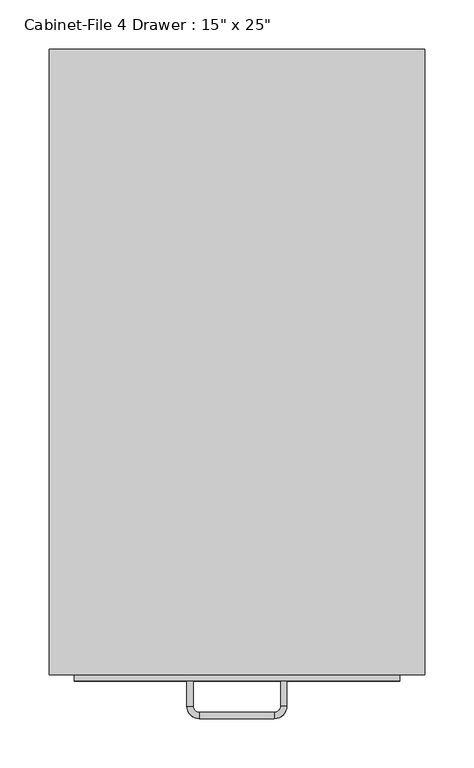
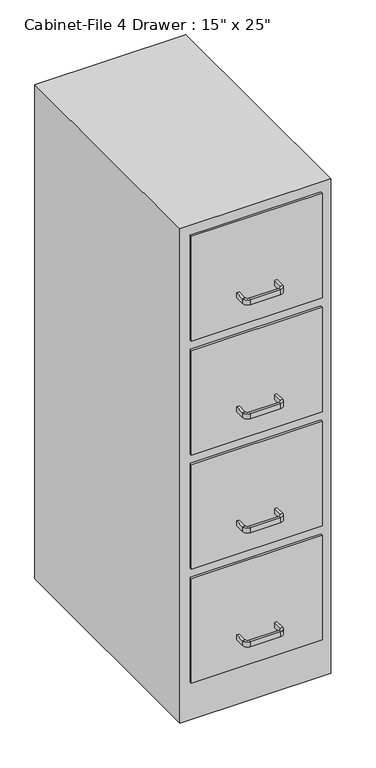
"""IFC4 building model written with IfcOpenShell, lengths in millimetres: furniture geometry."""

from ifc_helpers import new_model, si_unit, frame, origin, origin_with_axes, place, context, project, spatial, polyline, circle_curve, outline, extrude, source, transform, mapped, element, save
from ifc_brep_helpers import plane_surface, cylinder_surface, revolved_surface, advanced_brep


def furniture_e55d9147(model_context):
    return source(origin(), model_context, "Body", "SolidModel", [
        extrude(outline(polyline([(62.603553, 175.3656999), (62.603553, -459.6343001), (-318.396447, -459.6343001), (-318.396447, 175.3656999), (62.603553, 175.3656999)])), origin_with_axes(), (0.0, 0.0, 1.0), 1320.8),
        extrude(outline(polyline([(37.203553, -465.9843001), (-292.996447, -465.9843001), (-292.996447, -459.6343001), (37.203553, -459.6343001), (37.203553, -465.9843001)])), frame((0.0, 0.0, 1016.0), z_axis=(0.0, 0.0, 1.0), x_axis=(1.0, 0.0, 0.0)), (0.0, 0.0, 1.0), 279.4),
        extrude(outline(polyline([(37.203553, -465.9843001), (-292.996447, -465.9843001), (-292.996447, -459.6343001), (37.203553, -459.6343001), (37.203553, -465.9843001)])), frame((0.0, 0.0, 711.2), z_axis=(0.0, 0.0, 1.0), x_axis=(1.0, 0.0, 0.0)), (0.0, 0.0, 1.0), 279.4),
        extrude(outline(polyline([(37.203553, -465.9843001), (-292.996447, -465.9843001), (-292.996447, -459.6343001), (37.203553, -459.6343001), (37.203553, -465.9843001)])), frame((0.0, 0.0, 406.4), z_axis=(0.0, 0.0, 1.0), x_axis=(1.0, 0.0, 0.0)), (0.0, 0.0, 1.0), 279.4),
        extrude(outline(polyline([(37.203553, -465.9843001), (-292.996447, -465.9843001), (-292.996447, -459.6343001), (37.203553, -459.6343001), (37.203553, -465.9843001)])), frame((0.0, 0.0, 101.6), z_axis=(0.0, 0.0, 1.0), x_axis=(1.0, 0.0, 0.0)), (0.0, 0.0, 1.0), 279.4),
        advanced_brep(
        [(-172.346447, -465.9843001, 177.8), (-178.696447, -465.9843001, 177.8), (-178.696447, -465.9843001, 190.5), (-172.346447, -465.9843001, 190.5), (-172.346447, -491.3843001, 177.8), (-178.696447, -491.3843001, 177.8), (-178.696447, -491.3843001, 190.5), (-172.346447, -491.3843001, 190.5), (-165.996447, -504.0843001, 177.8), (-165.996447, -497.7343001, 177.8), (-165.996447, -504.0843001, 190.5), (-165.996447, -497.7343001, 190.5), (-89.796447, -497.7343001, 177.8), (-89.796447, -504.0843001, 177.8), (-89.796447, -504.0843001, 190.5), (-89.796447, -497.7343001, 190.5), (-77.096447, -491.3843001, 177.8), (-83.446447, -491.3843001, 177.8), (-77.096447, -491.3843001, 190.5), (-83.446447, -491.3843001, 190.5), (-83.446447, -465.9843001, 177.8), (-83.446447, -465.9843001, 190.5), (-77.096447, -465.9843001, 190.5), (-77.096447, -465.9843001, 177.8)],
        [
            (0, 1),
            (1, 2),
            (2, 3),
            (3, 0),
            (0, 4),
            (4, 5),
            (5, 1),
            (5, 6),
            (6, 2),
            (6, 7),
            (7, 3),
            (7, 4),
            (8, 5, circle_curve(frame((-165.996447, -491.3843001, 177.8), z_axis=(0.0, 0.0, -1.0), x_axis=(-1.0, 0.0, 0.0)), 12.7)),
            (4, 9, circle_curve(frame((-165.996447, -491.3843001, 177.8), z_axis=(0.0, 0.0, 1.0), x_axis=(-1.0, 0.0, 0.0)), 6.35)),
            (9, 8),
            (10, 6, circle_curve(frame((-165.996447, -491.3843001, 190.5), z_axis=(0.0, 0.0, -1.0), x_axis=(-1.0, 0.0, 0.0)), 12.7)),
            (8, 10),
            (11, 7, circle_curve(frame((-165.996447, -491.3843001, 190.5), z_axis=(0.0, 0.0, -1.0), x_axis=(-1.0, 0.0, 0.0)), 6.35)),
            (10, 11),
            (11, 9),
            (9, 12),
            (12, 13),
            (13, 8),
            (13, 14),
            (14, 10),
            (14, 15),
            (15, 11),
            (15, 12),
            (16, 13, circle_curve(frame((-89.796447, -491.3843001, 177.8), z_axis=(0.0, 0.0, -1.0), x_axis=(0.0, -1.0, 0.0)), 12.7)),
            (12, 17, circle_curve(frame((-89.796447, -491.3843001, 177.8), z_axis=(0.0, 0.0, 1.0), x_axis=(0.0, -1.0, 0.0)), 6.35)),
            (17, 16),
            (18, 14, circle_curve(frame((-89.796447, -491.3843001, 190.5), z_axis=(0.0, 0.0, -1.0), x_axis=(0.0, -1.0, 0.0)), 12.7)),
            (16, 18),
            (19, 15, circle_curve(frame((-89.796447, -491.3843001, 190.5), z_axis=(0.0, 0.0, -1.0), x_axis=(0.0, -1.0, 0.0)), 6.35)),
            (18, 19),
            (19, 17),
            (20, 21),
            (21, 22),
            (22, 23),
            (23, 20),
            (17, 20),
            (23, 16),
            (22, 18),
            (21, 19),
        ],
        [
            plane_surface(frame((-1283.614694, -465.9843001, 0.0), z_axis=(0.0, 1.0, 0.0), x_axis=(0.0, 0.0, -1.0))),
            plane_surface(frame((-172.346447, -465.9843001, 177.8), z_axis=(0.0, 0.0, -1.0), x_axis=(0.0, -1.0, 0.0))),
            plane_surface(frame((-178.696447, -465.9843001, 177.8), z_axis=(-1.0, 0.0, 0.0), x_axis=(0.0, -1.0, 0.0))),
            plane_surface(frame((-178.696447, -465.9843001, 190.5), z_axis=(0.0, 0.0, 1.0), x_axis=(0.0, -1.0, 0.0))),
            plane_surface(frame((-172.346447, -465.9843001, 190.5), z_axis=(1.0, 0.0, 0.0), x_axis=(0.0, -1.0, 0.0))),
            plane_surface(frame((-165.996447, -491.3843001, 177.8), z_axis=(0.0, 0.0, -1.0), x_axis=(-1.0, 0.0, 0.0))),
            cylinder_surface(frame((-165.996447, -491.3843001, 0.0), z_axis=(0.0, 0.0, 1.0), x_axis=(-1.0, 0.0, 0.0)), 12.7),
            plane_surface(frame((-165.996447, -491.3843001, 190.5), z_axis=(0.0, 0.0, 1.0), x_axis=(-1.0, 0.0, 0.0))),
            revolved_surface(polyline([(-172.34644699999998, -491.3843001, 190.5), (-172.34644699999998, -491.3843001, 177.8)]), (-165.996447, -491.3843001, 0.0), (0.0, 0.0, 1.0)),
            plane_surface(frame((-165.996447, -497.7343001, 177.8), z_axis=(0.0, 0.0, -1.0), x_axis=(1.0, 0.0, 0.0))),
            plane_surface(frame((-165.996447, -504.0843001, 177.8), z_axis=(0.0, -1.0, 0.0), x_axis=(1.0, 0.0, 0.0))),
            plane_surface(frame((-165.996447, -504.0843001, 190.5), z_axis=(0.0, 0.0, 1.0), x_axis=(1.0, 0.0, 0.0))),
            plane_surface(frame((-165.996447, -497.7343001, 190.5), z_axis=(0.0, 1.0, 0.0), x_axis=(1.0, 0.0, 0.0))),
            plane_surface(frame((-89.796447, -491.3843001, 177.8), z_axis=(0.0, 0.0, -1.0), x_axis=(0.0, -1.0, 0.0))),
            cylinder_surface(frame((-89.796447, -491.3843001, 0.0), z_axis=(0.0, 0.0, 1.0), x_axis=(0.0, -1.0, 0.0)), 12.7),
            plane_surface(frame((-89.796447, -491.3843001, 190.5), z_axis=(0.0, 0.0, 1.0), x_axis=(0.0, -1.0, 0.0))),
            revolved_surface(polyline([(-89.796447, -497.73430010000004, 190.5), (-89.796447, -497.73430010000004, 177.8)]), (-89.796447, -491.3843001, 0.0), (0.0, 0.0, 1.0)),
            plane_surface(frame((-1182.014694, -465.9843001, 0.0), z_axis=(0.0, 1.0, 0.0), x_axis=(0.0, 0.0, 1.0))),
            plane_surface(frame((-83.446447, -491.3843001, 177.8), z_axis=(0.0, 0.0, -1.0), x_axis=(0.0, 1.0, 0.0))),
            plane_surface(frame((-77.096447, -491.3843001, 177.8), z_axis=(1.0, 0.0, 0.0), x_axis=(0.0, 1.0, 0.0))),
            plane_surface(frame((-77.096447, -491.3843001, 190.5), z_axis=(0.0, 0.0, 1.0), x_axis=(0.0, 1.0, 0.0))),
            plane_surface(frame((-83.446447, -491.3843001, 190.5), z_axis=(-1.0, 0.0, 0.0), x_axis=(0.0, 1.0, 0.0))),
        ],
        [
            (0, [[1, 2, 3, 4]]),
            (1, [[-1, 5, 6, 7]]),
            (2, [[-2, -7, 8, 9]]),
            (3, [[-3, -9, 10, 11]]),
            (4, [[-4, -11, 12, -5]]),
            (5, [[13, -6, 14, 15]]),
            (6, [[16, -8, -13, 17]]),
            (7, [[18, -10, -16, 19]]),
            (8, [[-14, -12, -18, 20]]),
            (9, [[-15, 21, 22, 23]]),
            (10, [[-17, -23, 24, 25]]),
            (11, [[-19, -25, 26, 27]]),
            (12, [[-20, -27, 28, -21]]),
            (13, [[29, -22, 30, 31]]),
            (14, [[32, -24, -29, 33]]),
            (15, [[34, -26, -32, 35]]),
            (16, [[-30, -28, -34, 36]]),
            (17, [[37, 38, 39, 40]]),
            (18, [[-31, 41, -40, 42]]),
            (19, [[-33, -42, -39, 43]]),
            (20, [[-35, -43, -38, 44]]),
            (21, [[-36, -44, -37, -41]]),
        ],
    ),
        advanced_brep(
        [(-172.346447, -465.9843001, 482.6), (-178.696447, -465.9843001, 482.6), (-178.696447, -465.9843001, 495.3), (-172.346447, -465.9843001, 495.3), (-172.346447, -491.3843001, 482.6), (-178.696447, -491.3843001, 482.6), (-178.696447, -491.3843001, 495.3), (-172.346447, -491.3843001, 495.3), (-165.996447, -504.0843001, 482.6), (-165.996447, -497.7343001, 482.6), (-165.996447, -504.0843001, 495.3), (-165.996447, -497.7343001, 495.3), (-89.796447, -497.7343001, 482.6), (-89.796447, -504.0843001, 482.6), (-89.796447, -504.0843001, 495.3), (-89.796447, -497.7343001, 495.3), (-77.096447, -491.3843001, 482.6), (-83.446447, -491.3843001, 482.6), (-77.096447, -491.3843001, 495.3), (-83.446447, -491.3843001, 495.3), (-83.446447, -465.9843001, 482.6), (-83.446447, -465.9843001, 495.3), (-77.096447, -465.9843001, 495.3), (-77.096447, -465.9843001, 482.6)],
        [
            (0, 1),
            (1, 2),
            (2, 3),
            (3, 0),
            (0, 4),
            (4, 5),
            (5, 1),
            (5, 6),
            (6, 2),
            (6, 7),
            (7, 3),
            (7, 4),
            (8, 5, circle_curve(frame((-165.996447, -491.3843001, 482.6), z_axis=(0.0, 0.0, -1.0), x_axis=(-1.0, 0.0, 0.0)), 12.7)),
            (4, 9, circle_curve(frame((-165.996447, -491.3843001, 482.6), z_axis=(0.0, 0.0, 1.0), x_axis=(-1.0, 0.0, 0.0)), 6.35)),
            (9, 8),
            (10, 6, circle_curve(frame((-165.996447, -491.3843001, 495.3), z_axis=(0.0, 0.0, -1.0), x_axis=(-1.0, 0.0, 0.0)), 12.7)),
            (8, 10),
            (11, 7, circle_curve(frame((-165.996447, -491.3843001, 495.3), z_axis=(0.0, 0.0, -1.0), x_axis=(-1.0, 0.0, 0.0)), 6.35)),
            (10, 11),
            (11, 9),
            (9, 12),
            (12, 13),
            (13, 8),
            (13, 14),
            (14, 10),
            (14, 15),
            (15, 11),
            (15, 12),
            (16, 13, circle_curve(frame((-89.796447, -491.3843001, 482.6), z_axis=(0.0, 0.0, -1.0), x_axis=(0.0, -1.0, 0.0)), 12.7)),
            (12, 17, circle_curve(frame((-89.796447, -491.3843001, 482.6), z_axis=(0.0, 0.0, 1.0), x_axis=(0.0, -1.0, 0.0)), 6.35)),
            (17, 16),
            (18, 14, circle_curve(frame((-89.796447, -491.3843001, 495.3), z_axis=(0.0, 0.0, -1.0), x_axis=(0.0, -1.0, 0.0)), 12.7)),
            (16, 18),
            (19, 15, circle_curve(frame((-89.796447, -491.3843001, 495.3), z_axis=(0.0, 0.0, -1.0), x_axis=(0.0, -1.0, 0.0)), 6.35)),
            (18, 19),
            (19, 17),
            (20, 21),
            (21, 22),
            (22, 23),
            (23, 20),
            (17, 20),
            (23, 16),
            (22, 18),
            (21, 19),
        ],
        [
            plane_surface(frame((-1283.614694, -465.9843001, 0.0), z_axis=(0.0, 1.0, 0.0), x_axis=(0.0, 0.0, -1.0))),
            plane_surface(frame((-172.346447, -465.9843001, 482.6), z_axis=(0.0, 0.0, -1.0), x_axis=(0.0, -1.0, 0.0))),
            plane_surface(frame((-178.696447, -465.9843001, 482.6), z_axis=(-1.0, 0.0, 0.0), x_axis=(0.0, -1.0, 0.0))),
            plane_surface(frame((-178.696447, -465.9843001, 495.3), z_axis=(0.0, 0.0, 1.0), x_axis=(0.0, -1.0, 0.0))),
            plane_surface(frame((-172.346447, -465.9843001, 495.3), z_axis=(1.0, 0.0, 0.0), x_axis=(0.0, -1.0, 0.0))),
            plane_surface(frame((-165.996447, -491.3843001, 482.6), z_axis=(0.0, 0.0, -1.0), x_axis=(-1.0, 0.0, 0.0))),
            cylinder_surface(frame((-165.996447, -491.3843001, 0.0), z_axis=(0.0, 0.0, 1.0), x_axis=(-1.0, 0.0, 0.0)), 12.7),
            plane_surface(frame((-165.996447, -491.3843001, 495.3), z_axis=(0.0, 0.0, 1.0), x_axis=(-1.0, 0.0, 0.0))),
            revolved_surface(polyline([(-172.34644699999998, -491.3843001, 495.3), (-172.34644699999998, -491.3843001, 482.6)]), (-165.996447, -491.3843001, 0.0), (0.0, 0.0, 1.0)),
            plane_surface(frame((-165.996447, -497.7343001, 482.6), z_axis=(0.0, 0.0, -1.0), x_axis=(1.0, 0.0, 0.0))),
            plane_surface(frame((-165.996447, -504.0843001, 482.6), z_axis=(0.0, -1.0, 0.0), x_axis=(1.0, 0.0, 0.0))),
            plane_surface(frame((-165.996447, -504.0843001, 495.3), z_axis=(0.0, 0.0, 1.0), x_axis=(1.0, 0.0, 0.0))),
            plane_surface(frame((-165.996447, -497.7343001, 495.3), z_axis=(0.0, 1.0, 0.0), x_axis=(1.0, 0.0, 0.0))),
            plane_surface(frame((-89.796447, -491.3843001, 482.6), z_axis=(0.0, 0.0, -1.0), x_axis=(0.0, -1.0, 0.0))),
            cylinder_surface(frame((-89.796447, -491.3843001, 0.0), z_axis=(0.0, 0.0, 1.0), x_axis=(0.0, -1.0, 0.0)), 12.7),
            plane_surface(frame((-89.796447, -491.3843001, 495.3), z_axis=(0.0, 0.0, 1.0), x_axis=(0.0, -1.0, 0.0))),
            revolved_surface(polyline([(-89.796447, -497.73430010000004, 495.3), (-89.796447, -497.73430010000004, 482.6)]), (-89.796447, -491.3843001, 0.0), (0.0, 0.0, 1.0)),
            plane_surface(frame((-1182.014694, -465.9843001, 0.0), z_axis=(0.0, 1.0, 0.0), x_axis=(0.0, 0.0, 1.0))),
            plane_surface(frame((-83.446447, -491.3843001, 482.6), z_axis=(0.0, 0.0, -1.0), x_axis=(0.0, 1.0, 0.0))),
            plane_surface(frame((-77.096447, -491.3843001, 482.6), z_axis=(1.0, 0.0, 0.0), x_axis=(0.0, 1.0, 0.0))),
            plane_surface(frame((-77.096447, -491.3843001, 495.3), z_axis=(0.0, 0.0, 1.0), x_axis=(0.0, 1.0, 0.0))),
            plane_surface(frame((-83.446447, -491.3843001, 495.3), z_axis=(-1.0, 0.0, 0.0), x_axis=(0.0, 1.0, 0.0))),
        ],
        [
            (0, [[1, 2, 3, 4]]),
            (1, [[-1, 5, 6, 7]]),
            (2, [[-2, -7, 8, 9]]),
            (3, [[-3, -9, 10, 11]]),
            (4, [[-4, -11, 12, -5]]),
            (5, [[13, -6, 14, 15]]),
            (6, [[16, -8, -13, 17]]),
            (7, [[18, -10, -16, 19]]),
            (8, [[-14, -12, -18, 20]]),
            (9, [[-15, 21, 22, 23]]),
            (10, [[-17, -23, 24, 25]]),
            (11, [[-19, -25, 26, 27]]),
            (12, [[-20, -27, 28, -21]]),
            (13, [[29, -22, 30, 31]]),
            (14, [[32, -24, -29, 33]]),
            (15, [[34, -26, -32, 35]]),
            (16, [[-30, -28, -34, 36]]),
            (17, [[37, 38, 39, 40]]),
            (18, [[-31, 41, -40, 42]]),
            (19, [[-33, -42, -39, 43]]),
            (20, [[-35, -43, -38, 44]]),
            (21, [[-36, -44, -37, -41]]),
        ],
    ),
        advanced_brep(
        [(-172.346447, -465.9843001, 787.4), (-178.696447, -465.9843001, 787.4), (-178.696447, -465.9843001, 800.1), (-172.346447, -465.9843001, 800.1), (-172.346447, -491.3843001, 787.4), (-178.696447, -491.3843001, 787.4), (-178.696447, -491.3843001, 800.1), (-172.346447, -491.3843001, 800.1), (-165.996447, -504.0843001, 787.4), (-165.996447, -497.7343001, 787.4), (-165.996447, -504.0843001, 800.1), (-165.996447, -497.7343001, 800.1), (-89.796447, -497.7343001, 787.4), (-89.796447, -504.0843001, 787.4), (-89.796447, -504.0843001, 800.1), (-89.796447, -497.7343001, 800.1), (-77.096447, -491.3843001, 787.4), (-83.446447, -491.3843001, 787.4), (-77.096447, -491.3843001, 800.1), (-83.446447, -491.3843001, 800.1), (-83.446447, -465.9843001, 787.4), (-83.446447, -465.9843001, 800.1), (-77.096447, -465.9843001, 800.1), (-77.096447, -465.9843001, 787.4)],
        [
            (0, 1),
            (1, 2),
            (2, 3),
            (3, 0),
            (0, 4),
            (4, 5),
            (5, 1),
            (5, 6),
            (6, 2),
            (6, 7),
            (7, 3),
            (7, 4),
            (8, 5, circle_curve(frame((-165.996447, -491.3843001, 787.4), z_axis=(0.0, 0.0, -1.0), x_axis=(-1.0, 0.0, 0.0)), 12.7)),
            (4, 9, circle_curve(frame((-165.996447, -491.3843001, 787.4), z_axis=(0.0, 0.0, 1.0), x_axis=(-1.0, 0.0, 0.0)), 6.35)),
            (9, 8),
            (10, 6, circle_curve(frame((-165.996447, -491.3843001, 800.1), z_axis=(0.0, 0.0, -1.0), x_axis=(-1.0, 0.0, 0.0)), 12.7)),
            (8, 10),
            (11, 7, circle_curve(frame((-165.996447, -491.3843001, 800.1), z_axis=(0.0, 0.0, -1.0), x_axis=(-1.0, 0.0, 0.0)), 6.35)),
            (10, 11),
            (11, 9),
            (9, 12),
            (12, 13),
            (13, 8),
            (13, 14),
            (14, 10),
            (14, 15),
            (15, 11),
            (15, 12),
            (16, 13, circle_curve(frame((-89.796447, -491.3843001, 787.4), z_axis=(0.0, 0.0, -1.0), x_axis=(0.0, -1.0, 0.0)), 12.7)),
            (12, 17, circle_curve(frame((-89.796447, -491.3843001, 787.4), z_axis=(0.0, 0.0, 1.0), x_axis=(0.0, -1.0, 0.0)), 6.35)),
            (17, 16),
            (18, 14, circle_curve(frame((-89.796447, -491.3843001, 800.1), z_axis=(0.0, 0.0, -1.0), x_axis=(0.0, -1.0, 0.0)), 12.7)),
            (16, 18),
            (19, 15, circle_curve(frame((-89.796447, -491.3843001, 800.1), z_axis=(0.0, 0.0, -1.0), x_axis=(0.0, -1.0, 0.0)), 6.35)),
            (18, 19),
            (19, 17),
            (20, 21),
            (21, 22),
            (22, 23),
            (23, 20),
            (17, 20),
            (23, 16),
            (22, 18),
            (21, 19),
        ],
        [
            plane_surface(frame((-1283.614694, -465.9843001, 0.0), z_axis=(0.0, 1.0, 0.0), x_axis=(0.0, 0.0, -1.0))),
            plane_surface(frame((-172.346447, -465.9843001, 787.4), z_axis=(0.0, 0.0, -1.0), x_axis=(0.0, -1.0, 0.0))),
            plane_surface(frame((-178.696447, -465.9843001, 787.4), z_axis=(-1.0, 0.0, 0.0), x_axis=(0.0, -1.0, 0.0))),
            plane_surface(frame((-178.696447, -465.9843001, 800.1), z_axis=(0.0, 0.0, 1.0), x_axis=(0.0, -1.0, 0.0))),
            plane_surface(frame((-172.346447, -465.9843001, 800.1), z_axis=(1.0, 0.0, 0.0), x_axis=(0.0, -1.0, 0.0))),
            plane_surface(frame((-165.996447, -491.3843001, 787.4), z_axis=(0.0, 0.0, -1.0), x_axis=(-1.0, 0.0, 0.0))),
            cylinder_surface(frame((-165.996447, -491.3843001, 0.0), z_axis=(0.0, 0.0, 1.0), x_axis=(-1.0, 0.0, 0.0)), 12.7),
            plane_surface(frame((-165.996447, -491.3843001, 800.1), z_axis=(0.0, 0.0, 1.0), x_axis=(-1.0, 0.0, 0.0))),
            revolved_surface(polyline([(-172.34644699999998, -491.3843001, 800.1), (-172.34644699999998, -491.3843001, 787.4)]), (-165.996447, -491.3843001, 0.0), (0.0, 0.0, 1.0)),
            plane_surface(frame((-165.996447, -497.7343001, 787.4), z_axis=(0.0, 0.0, -1.0), x_axis=(1.0, 0.0, 0.0))),
            plane_surface(frame((-165.996447, -504.0843001, 787.4), z_axis=(0.0, -1.0, 0.0), x_axis=(1.0, 0.0, 0.0))),
            plane_surface(frame((-165.996447, -504.0843001, 800.1), z_axis=(0.0, 0.0, 1.0), x_axis=(1.0, 0.0, 0.0))),
            plane_surface(frame((-165.996447, -497.7343001, 800.1), z_axis=(0.0, 1.0, 0.0), x_axis=(1.0, 0.0, 0.0))),
            plane_surface(frame((-89.796447, -491.3843001, 787.4), z_axis=(0.0, 0.0, -1.0), x_axis=(0.0, -1.0, 0.0))),
            cylinder_surface(frame((-89.796447, -491.3843001, 0.0), z_axis=(0.0, 0.0, 1.0), x_axis=(0.0, -1.0, 0.0)), 12.7),
            plane_surface(frame((-89.796447, -491.3843001, 800.1), z_axis=(0.0, 0.0, 1.0), x_axis=(0.0, -1.0, 0.0))),
            revolved_surface(polyline([(-89.796447, -497.73430010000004, 800.1), (-89.796447, -497.73430010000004, 787.4)]), (-89.796447, -491.3843001, 0.0), (0.0, 0.0, 1.0)),
            plane_surface(frame((-1182.014694, -465.9843001, 0.0), z_axis=(0.0, 1.0, 0.0), x_axis=(0.0, 0.0, 1.0))),
            plane_surface(frame((-83.446447, -491.3843001, 787.4), z_axis=(0.0, 0.0, -1.0), x_axis=(0.0, 1.0, 0.0))),
            plane_surface(frame((-77.096447, -491.3843001, 787.4), z_axis=(1.0, 0.0, 0.0), x_axis=(0.0, 1.0, 0.0))),
            plane_surface(frame((-77.096447, -491.3843001, 800.1), z_axis=(0.0, 0.0, 1.0), x_axis=(0.0, 1.0, 0.0))),
            plane_surface(frame((-83.446447, -491.3843001, 800.1), z_axis=(-1.0, 0.0, 0.0), x_axis=(0.0, 1.0, 0.0))),
        ],
        [
            (0, [[1, 2, 3, 4]]),
            (1, [[-1, 5, 6, 7]]),
            (2, [[-2, -7, 8, 9]]),
            (3, [[-3, -9, 10, 11]]),
            (4, [[-4, -11, 12, -5]]),
            (5, [[13, -6, 14, 15]]),
            (6, [[16, -8, -13, 17]]),
            (7, [[18, -10, -16, 19]]),
            (8, [[-14, -12, -18, 20]]),
            (9, [[-15, 21, 22, 23]]),
            (10, [[-17, -23, 24, 25]]),
            (11, [[-19, -25, 26, 27]]),
            (12, [[-20, -27, 28, -21]]),
            (13, [[29, -22, 30, 31]]),
            (14, [[32, -24, -29, 33]]),
            (15, [[34, -26, -32, 35]]),
            (16, [[-30, -28, -34, 36]]),
            (17, [[37, 38, 39, 40]]),
            (18, [[-31, 41, -40, 42]]),
            (19, [[-33, -42, -39, 43]]),
            (20, [[-35, -43, -38, 44]]),
            (21, [[-36, -44, -37, -41]]),
        ],
    ),
        advanced_brep(
        [(-172.346447, -465.9843001, 1092.2), (-178.696447, -465.9843001, 1092.2), (-178.696447, -465.9843001, 1104.9), (-172.346447, -465.9843001, 1104.9), (-172.346447, -491.3843001, 1092.2), (-178.696447, -491.3843001, 1092.2), (-178.696447, -491.3843001, 1104.9), (-172.346447, -491.3843001, 1104.9), (-165.996447, -504.0843001, 1092.2), (-165.996447, -497.7343001, 1092.2), (-165.996447, -504.0843001, 1104.9), (-165.996447, -497.7343001, 1104.9), (-89.796447, -497.7343001, 1092.2), (-89.796447, -504.0843001, 1092.2), (-89.796447, -504.0843001, 1104.9), (-89.796447, -497.7343001, 1104.9), (-77.096447, -491.3843001, 1092.2), (-83.446447, -491.3843001, 1092.2), (-77.096447, -491.3843001, 1104.9), (-83.446447, -491.3843001, 1104.9), (-83.446447, -465.9843001, 1092.2), (-83.446447, -465.9843001, 1104.9), (-77.096447, -465.9843001, 1104.9), (-77.096447, -465.9843001, 1092.2)],
        [
            (0, 1),
            (1, 2),
            (2, 3),
            (3, 0),
            (0, 4),
            (4, 5),
            (5, 1),
            (5, 6),
            (6, 2),
            (6, 7),
            (7, 3),
            (7, 4),
            (8, 5, circle_curve(frame((-165.996447, -491.3843001, 1092.2), z_axis=(0.0, 0.0, -1.0), x_axis=(-1.0, 0.0, 0.0)), 12.7)),
            (4, 9, circle_curve(frame((-165.996447, -491.3843001, 1092.2), z_axis=(0.0, 0.0, 1.0), x_axis=(-1.0, 0.0, 0.0)), 6.35)),
            (9, 8),
            (10, 6, circle_curve(frame((-165.996447, -491.3843001, 1104.9), z_axis=(0.0, 0.0, -1.0), x_axis=(-1.0, 0.0, 0.0)), 12.7)),
            (8, 10),
            (11, 7, circle_curve(frame((-165.996447, -491.3843001, 1104.9), z_axis=(0.0, 0.0, -1.0), x_axis=(-1.0, 0.0, 0.0)), 6.35)),
            (10, 11),
            (11, 9),
            (9, 12),
            (12, 13),
            (13, 8),
            (13, 14),
            (14, 10),
            (14, 15),
            (15, 11),
            (15, 12),
            (16, 13, circle_curve(frame((-89.796447, -491.3843001, 1092.2), z_axis=(0.0, 0.0, -1.0), x_axis=(0.0, -1.0, 0.0)), 12.7)),
            (12, 17, circle_curve(frame((-89.796447, -491.3843001, 1092.2), z_axis=(0.0, 0.0, 1.0), x_axis=(0.0, -1.0, 0.0)), 6.35)),
            (17, 16),
            (18, 14, circle_curve(frame((-89.796447, -491.3843001, 1104.9), z_axis=(0.0, 0.0, -1.0), x_axis=(0.0, -1.0, 0.0)), 12.7)),
            (16, 18),
            (19, 15, circle_curve(frame((-89.796447, -491.3843001, 1104.9), z_axis=(0.0, 0.0, -1.0), x_axis=(0.0, -1.0, 0.0)), 6.35)),
            (18, 19),
            (19, 17),
            (20, 21),
            (21, 22),
            (22, 23),
            (23, 20),
            (17, 20),
            (23, 16),
            (22, 18),
            (21, 19),
        ],
        [
            plane_surface(frame((-1283.614694, -465.9843001, 0.0), z_axis=(0.0, 1.0, 0.0), x_axis=(0.0, 0.0, -1.0))),
            plane_surface(frame((-172.346447, -465.9843001, 1092.2), z_axis=(0.0, 0.0, -1.0), x_axis=(0.0, -1.0, 0.0))),
            plane_surface(frame((-178.696447, -465.9843001, 1092.2), z_axis=(-1.0, 0.0, 0.0), x_axis=(0.0, -1.0, 0.0))),
            plane_surface(frame((-178.696447, -465.9843001, 1104.9), z_axis=(0.0, 0.0, 1.0), x_axis=(0.0, -1.0, 0.0))),
            plane_surface(frame((-172.346447, -465.9843001, 1104.9), z_axis=(1.0, 0.0, 0.0), x_axis=(0.0, -1.0, 0.0))),
            plane_surface(frame((-165.996447, -491.3843001, 1092.2), z_axis=(0.0, 0.0, -1.0), x_axis=(-1.0, 0.0, 0.0))),
            cylinder_surface(frame((-165.996447, -491.3843001, 0.0), z_axis=(0.0, 0.0, 1.0), x_axis=(-1.0, 0.0, 0.0)), 12.7),
            plane_surface(frame((-165.996447, -491.3843001, 1104.9), z_axis=(0.0, 0.0, 1.0), x_axis=(-1.0, 0.0, 0.0))),
            revolved_surface(polyline([(-172.34644699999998, -491.3843001, 1104.9), (-172.34644699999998, -491.3843001, 1092.2)]), (-165.996447, -491.3843001, 0.0), (0.0, 0.0, 1.0)),
            plane_surface(frame((-165.996447, -497.7343001, 1092.2), z_axis=(0.0, 0.0, -1.0), x_axis=(1.0, 0.0, 0.0))),
            plane_surface(frame((-165.996447, -504.0843001, 1092.2), z_axis=(0.0, -1.0, 0.0), x_axis=(1.0, 0.0, 0.0))),
            plane_surface(frame((-165.996447, -504.0843001, 1104.9), z_axis=(0.0, 0.0, 1.0), x_axis=(1.0, 0.0, 0.0))),
            plane_surface(frame((-165.996447, -497.7343001, 1104.9), z_axis=(0.0, 1.0, 0.0), x_axis=(1.0, 0.0, 0.0))),
            plane_surface(frame((-89.796447, -491.3843001, 1092.2), z_axis=(0.0, 0.0, -1.0), x_axis=(0.0, -1.0, 0.0))),
            cylinder_surface(frame((-89.796447, -491.3843001, 0.0), z_axis=(0.0, 0.0, 1.0), x_axis=(0.0, -1.0, 0.0)), 12.7),
            plane_surface(frame((-89.796447, -491.3843001, 1104.9), z_axis=(0.0, 0.0, 1.0), x_axis=(0.0, -1.0, 0.0))),
            revolved_surface(polyline([(-89.796447, -497.73430010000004, 1104.9), (-89.796447, -497.73430010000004, 1092.2)]), (-89.796447, -491.3843001, 0.0), (0.0, 0.0, 1.0)),
            plane_surface(frame((-1182.014694, -465.9843001, 0.0), z_axis=(0.0, 1.0, 0.0), x_axis=(0.0, 0.0, 1.0))),
            plane_surface(frame((-83.446447, -491.3843001, 1092.2), z_axis=(0.0, 0.0, -1.0), x_axis=(0.0, 1.0, 0.0))),
            plane_surface(frame((-77.096447, -491.3843001, 1092.2), z_axis=(1.0, 0.0, 0.0), x_axis=(0.0, 1.0, 0.0))),
            plane_surface(frame((-77.096447, -491.3843001, 1104.9), z_axis=(0.0, 0.0, 1.0), x_axis=(0.0, 1.0, 0.0))),
            plane_surface(frame((-83.446447, -491.3843001, 1104.9), z_axis=(-1.0, 0.0, 0.0), x_axis=(0.0, 1.0, 0.0))),
        ],
        [
            (0, [[1, 2, 3, 4]]),
            (1, [[-1, 5, 6, 7]]),
            (2, [[-2, -7, 8, 9]]),
            (3, [[-3, -9, 10, 11]]),
            (4, [[-4, -11, 12, -5]]),
            (5, [[13, -6, 14, 15]]),
            (6, [[16, -8, -13, 17]]),
            (7, [[18, -10, -16, 19]]),
            (8, [[-14, -12, -18, 20]]),
            (9, [[-15, 21, 22, 23]]),
            (10, [[-17, -23, 24, 25]]),
            (11, [[-19, -25, 26, 27]]),
            (12, [[-20, -27, 28, -21]]),
            (13, [[29, -22, 30, 31]]),
            (14, [[32, -24, -29, 33]]),
            (15, [[34, -26, -32, 35]]),
            (16, [[-30, -28, -34, 36]]),
            (17, [[37, 38, 39, 40]]),
            (18, [[-31, 41, -40, 42]]),
            (19, [[-33, -42, -39, 43]]),
            (20, [[-35, -43, -38, 44]]),
            (21, [[-36, -44, -37, -41]]),
        ],
    ),
    ])


if __name__ == "__main__":
    model = new_model("IFC4")
    model_context = context("Model", 3, world=origin())
    ifc_project = project(units=[si_unit("LENGTHUNIT", "METRE", prefix="MILLI")], contexts=[model_context])
    site = spatial("IfcSite", under=ifc_project)
    building = spatial("IfcBuilding", under=site)
    placement = place(None, origin())
    furniture_shape = furniture_e55d9147(model_context)
    element("IfcFurniture", 1, ObjectType="Cabinet-File 4 Drawer : 15\" x 25\"", at=placement, inside=building, context=model_context, shape_type="MappedRepresentation", body=[
        mapped(furniture_shape, transform((0.0, 0.0, 0.0), x_axis=(1.0, 0.0, 0.0), y_axis=(0.0, 1.0, 0.0), z_axis=(0.0, 0.0, 1.0))),
    ])
    save(model, "model.ifc")
